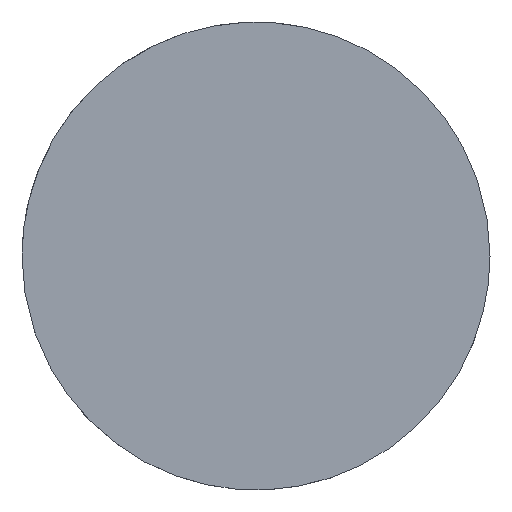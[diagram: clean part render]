
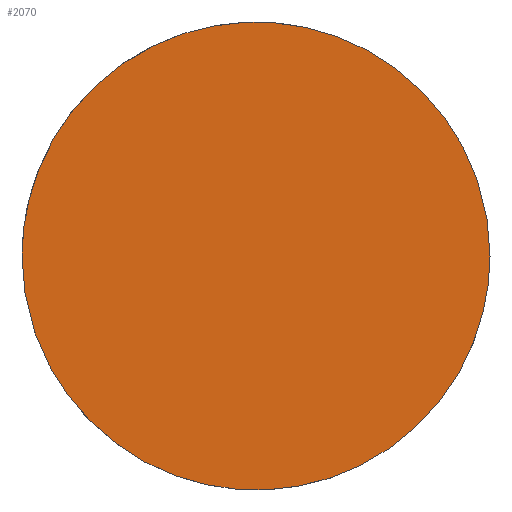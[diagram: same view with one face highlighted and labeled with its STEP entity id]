
A CAD part, top view. The second image highlights one B-rep face of the part: STEP entity #2070.
In plain terms, the highlighted planar face has unit normal (0, 0, 1).
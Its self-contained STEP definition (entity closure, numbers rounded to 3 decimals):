
#190 = CARTESIAN_POINT ('', (-37.5, 0., -140.08));
#200 = VERTEX_POINT ('', #190);
#260 = CARTESIAN_POINT ('', (37.5, 0., -140.08));
#270 = VERTEX_POINT ('', #260);
#280 = CARTESIAN_POINT ('', (37.5, 0., -140.08));
#290 = CARTESIAN_POINT ('', (37.5, 37.5, -140.08));
#300 = CARTESIAN_POINT ('', (0., 37.5, -140.08));
#310 = CARTESIAN_POINT ('', (-37.5, 37.5, -140.08));
#320 = CARTESIAN_POINT ('', (-37.5, 0., -140.08));
#330 = (
   BOUNDED_CURVE ()
   B_SPLINE_CURVE (2, (#280, #290, #300, #310, #320), .UNSPECIFIED., .F., .U.)
   B_SPLINE_CURVE_WITH_KNOTS ((3, 2, 3), (0., 1.571, 3.142), .UNSPECIFIED.)
   CURVE ()
   GEOMETRIC_REPRESENTATION_ITEM ()
   RATIONAL_B_SPLINE_CURVE ((1., 0.707, 1., 0.707, 1.))
   REPRESENTATION_ITEM ('')
);
#340 = EDGE_CURVE ('', #270, #200, #330, .T.);
#580 = CARTESIAN_POINT ('', (-37.5, 0., -140.08));
#590 = CARTESIAN_POINT ('', (-37.5, -37.5, -140.08));
#600 = CARTESIAN_POINT ('', (0., -37.5, -140.08));
#610 = CARTESIAN_POINT ('', (37.5, -37.5, -140.08));
#620 = CARTESIAN_POINT ('', (37.5, 0., -140.08));
#630 = (
   BOUNDED_CURVE ()
   B_SPLINE_CURVE (2, (#580, #590, #600, #610, #620), .UNSPECIFIED., .F., .U.)
   B_SPLINE_CURVE_WITH_KNOTS ((3, 2, 3), (3.142, 4.712, 6.283), .UNSPECIFIED.)
   CURVE ()
   GEOMETRIC_REPRESENTATION_ITEM ()
   RATIONAL_B_SPLINE_CURVE ((1., 0.707, 1., 0.707, 1.))
   REPRESENTATION_ITEM ('')
);
#640 = EDGE_CURVE ('', #200, #270, #630, .T.);
#1980 = ORIENTED_EDGE ('', *, *, #340, .T.);
#1990 = ORIENTED_EDGE ('', *, *, #640, .T.);
#2000 = EDGE_LOOP ('', (#1980, #1990));
#2010 = FACE_OUTER_BOUND ('', #2000, .T.);
#2020 = CARTESIAN_POINT ('', (0., 76.704, -140.08));
#2030 = DIRECTION ('', (0., 0., 1.));
#2040 = DIRECTION ('', (-0.707, -0.707, 0.));
#2050 = AXIS2_PLACEMENT_3D ('', #2020, #2030, #2040);
#2060 = PLANE ('', #2050);
#2070 = ADVANCED_FACE ('', (#2010), #2060, .T.);
